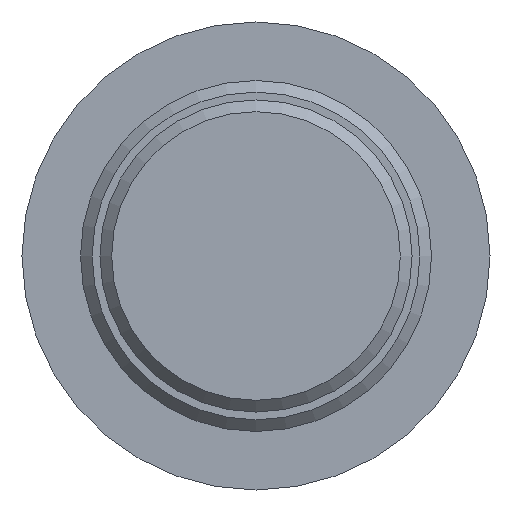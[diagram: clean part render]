
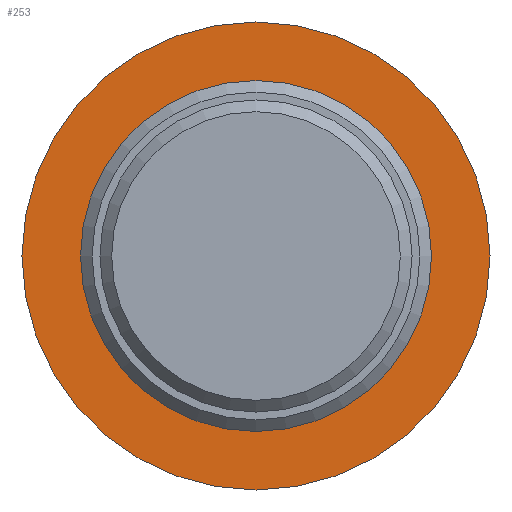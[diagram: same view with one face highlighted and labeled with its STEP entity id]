
A CAD part, front view. The second image highlights one B-rep face of the part: STEP entity #253.
In plain terms, the highlighted planar face has unit normal (0, -1, 0).
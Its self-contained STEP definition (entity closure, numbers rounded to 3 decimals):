
#101=CARTESIAN_POINT('',(-6.,28.5,0.0));
#102=VERTEX_POINT('',#101);
#103=CARTESIAN_POINT('',(0.0,28.5,0.0));
#104=DIRECTION('',(0.0,1.0,0.0));
#105=DIRECTION('',(-1.0,0.0,0.0));
#106=AXIS2_PLACEMENT_3D('',#103,#104,#105);
#107=CIRCLE('',#106,6.);
#108=EDGE_CURVE('',#102,#102,#107,.T.);
#178=CARTESIAN_POINT('',(-4.5,28.5,0.0));
#179=VERTEX_POINT('',#178);
#180=CARTESIAN_POINT('',(0.0,28.5,0.0));
#181=DIRECTION('',(0.0,1.0,0.0));
#182=DIRECTION('',(-1.0,0.0,0.0));
#183=AXIS2_PLACEMENT_3D('',#180,#181,#182);
#184=CIRCLE('',#183,4.5);
#185=EDGE_CURVE('',#179,#179,#184,.T.);
#242=CARTESIAN_POINT('',(-5.25,28.5,0.0));
#243=DIRECTION('',(0.0,-1.0,0.0));
#244=DIRECTION('',(0.0,0.0,-1.0));
#245=AXIS2_PLACEMENT_3D('',#242,#243,#244);
#246=PLANE('',#245);
#247=ORIENTED_EDGE('',*,*,#108,.F.);
#248=EDGE_LOOP('',(#247));
#249=FACE_OUTER_BOUND('',#248,.T.);
#250=ORIENTED_EDGE('',*,*,#185,.T.);
#251=EDGE_LOOP('',(#250));
#252=FACE_BOUND('',#251,.T.);
#253=ADVANCED_FACE('',(#249,#252),#246,.T.);
